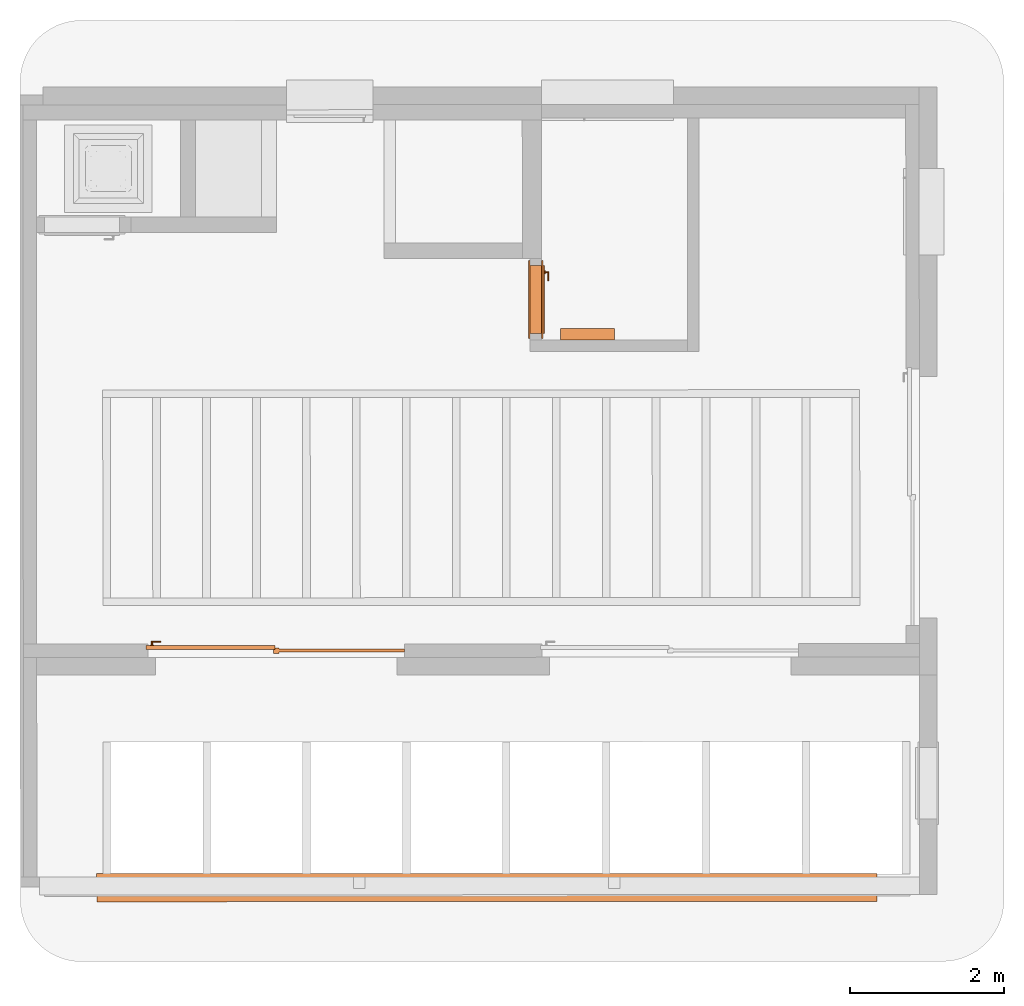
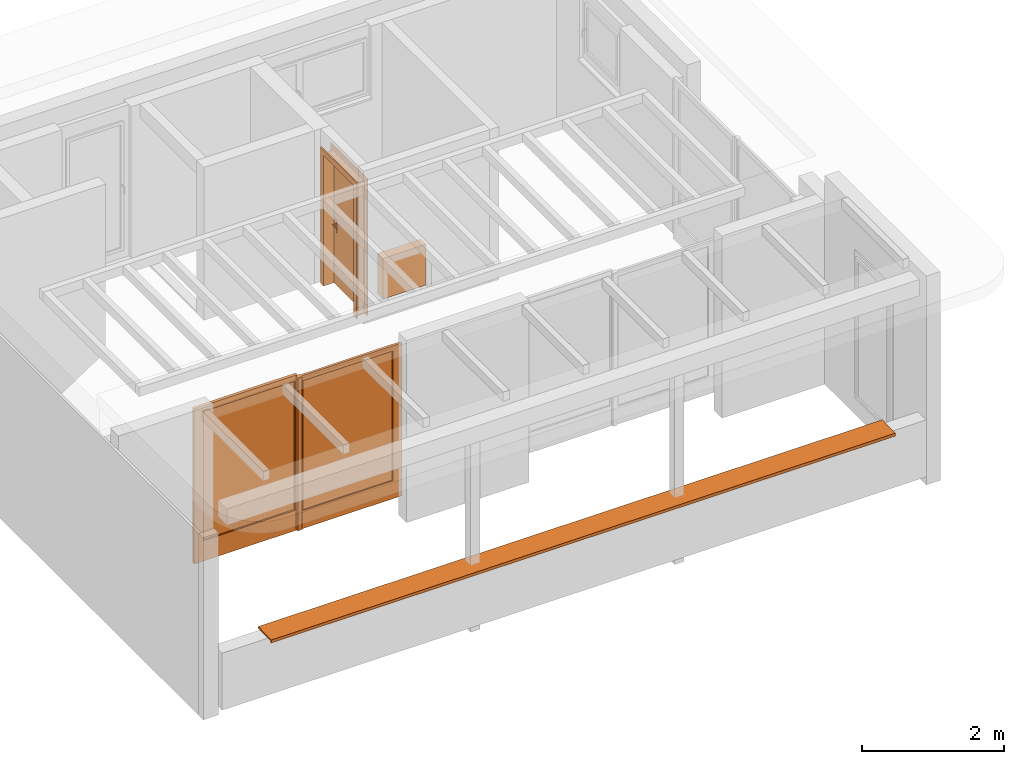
# One storey, part 4 of 7: 4 proxies.
"""IFC2X3 building model written with IfcOpenShell, lengths in metres."""

from ifc_helpers import new_model, entity, si_unit, converted_unit, derived_unit, direction, frame, origin, origin_with_axes, place, context, subcontext, project, spatial, closed_shell, open_shell, faceted_brep, surface_model, source, transform, mapped, element, save


model = new_model("IFC2X3")

# Units and contexts
model_context = context("Model", 3, precision=1e-05, world=origin(), true_north=direction((0.772621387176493, -0.634867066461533)))
body_context = subcontext(model_context, "Body", "Model", "MODEL_VIEW")
ifc_project = project(units=[si_unit("LENGTHUNIT", "METRE"), si_unit("AREAUNIT", "SQUARE_METRE"), si_unit("VOLUMEUNIT", "CUBIC_METRE"), si_unit("MASSUNIT", "GRAM", prefix="KILO"), converted_unit("PLANEANGLEUNIT", "DEGREE", entity("IfcPlaneAngleMeasure", 0.0174532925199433), si_unit("PLANEANGLEUNIT", "RADIAN"), dimensions=[0, 0, 0, 0, 0, 0, 0]), derived_unit("THERMALTRANSMITTANCEUNIT", [(si_unit("POWERUNIT", "WATT"), 1), (si_unit("THERMODYNAMICTEMPERATUREUNIT", "KELVIN"), -1), (si_unit("LENGTHUNIT", "METRE"), -2)]), derived_unit("VOLUMETRICFLOWRATEUNIT", [(si_unit("LENGTHUNIT", "METRE"), 3), (converted_unit("TIMEUNIT", "hour", entity("IfcTimeMeasure", 3600.0), si_unit("TIMEUNIT", "SECOND"), dimensions=[0, 0, 1, 0, 0, 0, 0]), -1), (si_unit("LENGTHUNIT", "METRE"), -1)])], contexts=[model_context])

# Site, building, storey
site_placement = place(None, origin())
site = spatial("IfcSite", under=ifc_project, at=site_placement, Name="Modelle auf dem Nullpunkt", CompositionType="ELEMENT")
building_placement = place(site_placement, origin())
building = spatial("IfcBuilding", under=site, at=building_placement, Name="I", CompositionType="ELEMENT")
storey_placement = place(building_placement, origin())
storey = spatial("IfcBuildingStorey", under=building, at=storey_placement, Name="3.OG", CompositionType="ELEMENT", Elevation=0.0)

# Proxies
shared_shape_1 = source(origin_with_axes(), body_context, "Body", "Brep", [
    faceted_brep([(0.0700000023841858, 0.190000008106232, 2.27), (0.0700000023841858, 0.190000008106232, 0.0), (0.0900000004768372, 0.190000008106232, 0.0), (0.0900000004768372, 0.190000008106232, 2.27), (0.0700000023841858, 0.0, 0.0), (0.0700000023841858, 0.0, 2.27), (0.0900000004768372, 0.0, 2.27), (0.0900000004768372, 0.0, 0.0)], [[[0, 1, 2, 3]], [[4, 5, 6, 7]], [[1, 0, 5, 4]], [[2, 1, 4, 7]], [[3, 2, 7, 6]], [[0, 3, 6, 5]]], orient=[[False], [False], [False], [False], [False], [False]]),
    faceted_brep([(0.0700000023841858, 0.190000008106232, 2.34), (0.0, 0.190000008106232, 2.34), (0.0, 0.190000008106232, 0.0), (0.0700000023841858, 0.190000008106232, 0.0), (0.0700000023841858, 0.170000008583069, 0.0), (0.0, 0.170000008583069, 0.0), (0.0, 0.170000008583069, 2.34), (0.0700000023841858, 0.170000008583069, 2.34)], [[[0, 1, 2, 3]], [[4, 5, 6, 7]], [[3, 4, 7, 0]], [[2, 5, 4, 3]], [[1, 6, 5, 2]], [[0, 7, 6, 1]]], orient=[[False], [False], [False], [False], [False], [False]]),
    faceted_brep([(0.0700000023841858, 0.0199999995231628, 2.34), (0.0, 0.02, 2.34), (0.0, 0.02, 0.0), (0.0700000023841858, 0.0199999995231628, 0.0), (0.0700000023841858, 0.0, 0.0), (0.0, 0.0, 0.0), (0.0, 0.0, 2.34), (0.0700000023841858, 0.0, 2.34)], [[[0, 1, 2, 3]], [[4, 5, 6, 7]], [[3, 4, 7, 0]], [[2, 5, 4, 3]], [[1, 6, 5, 2]], [[0, 7, 6, 1]]], orient=[[False], [False], [False], [False], [False], [False]]),
    faceted_brep([(0.930000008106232, 0.190000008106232, 2.27), (0.930000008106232, 0.190000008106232, 0.0), (0.950000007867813, 0.190000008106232, 0.0), (0.950000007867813, 0.190000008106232, 2.27), (0.930000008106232, 0.0, 0.0), (0.930000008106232, 0.0, 2.27), (0.950000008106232, 0.0, 2.27), (0.950000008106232, 0.0, 0.0)], [[[0, 1, 2, 3]], [[4, 5, 6, 7]], [[1, 0, 5, 4]], [[2, 1, 4, 7]], [[3, 2, 7, 6]], [[0, 3, 6, 5]]], orient=[[False], [False], [False], [False], [False], [False]]),
    faceted_brep([(0.950000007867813, 0.190000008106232, 2.34), (0.950000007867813, 0.190000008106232, 0.0), (1.02000000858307, 0.190000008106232, 0.0), (1.02000000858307, 0.190000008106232, 2.34), (0.950000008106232, 0.170000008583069, 0.0), (0.950000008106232, 0.170000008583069, 2.34), (1.02000000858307, 0.170000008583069, 2.34), (1.02000000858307, 0.170000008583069, 0.0)], [[[0, 1, 2, 3]], [[4, 5, 6, 7]], [[1, 0, 5, 4]], [[2, 1, 4, 7]], [[3, 2, 7, 6]], [[0, 3, 6, 5]]], orient=[[False], [False], [False], [False], [False], [False]]),
    faceted_brep([(0.950000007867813, 0.0199999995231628, 2.34), (0.950000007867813, 0.0199999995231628, 0.0), (1.02000000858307, 0.0199999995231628, 0.0), (1.02000000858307, 0.0199999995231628, 2.34), (0.950000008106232, 0.0, 0.0), (0.950000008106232, 0.0, 2.34), (1.02000000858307, 0.0, 2.34), (1.02000000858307, 0.0, 0.0)], [[[0, 1, 2, 3]], [[4, 5, 6, 7]], [[1, 0, 5, 4]], [[2, 1, 4, 7]], [[3, 2, 7, 6]], [[0, 3, 6, 5]]], orient=[[False], [False], [False], [False], [False], [False]]),
    faceted_brep([(0.0900000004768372, 0.190000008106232, 2.27), (0.0900000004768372, 0.190000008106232, 2.25), (0.930000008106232, 0.190000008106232, 2.25), (0.930000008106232, 0.190000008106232, 2.27), (0.0900000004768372, 0.0, 2.25), (0.0900000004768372, 0.0, 2.27), (0.930000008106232, 0.0, 2.27), (0.930000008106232, 0.0, 2.25)], [[[0, 1, 2, 3]], [[4, 5, 6, 7]], [[1, 0, 5, 4]], [[2, 1, 4, 7]], [[3, 2, 7, 6]], [[0, 3, 6, 5]]], orient=[[False], [False], [False], [False], [False], [False]]),
    faceted_brep([(0.0700000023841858, 0.190000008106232, 2.34), (0.0700000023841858, 0.190000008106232, 2.27), (0.950000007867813, 0.190000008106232, 2.27), (0.950000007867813, 0.190000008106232, 2.34), (0.0700000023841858, 0.170000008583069, 2.27), (0.0700000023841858, 0.170000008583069, 2.34), (0.950000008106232, 0.170000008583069, 2.34), (0.950000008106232, 0.170000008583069, 2.27)], [[[0, 1, 2, 3]], [[4, 5, 6, 7]], [[1, 0, 5, 4]], [[2, 1, 4, 7]], [[3, 2, 7, 6]], [[0, 3, 6, 5]]], orient=[[False], [False], [False], [False], [False], [False]]),
    faceted_brep([(0.0700000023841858, 0.0199999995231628, 2.34), (0.0700000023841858, 0.0199999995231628, 2.27), (0.950000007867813, 0.0199999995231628, 2.27), (0.950000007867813, 0.0199999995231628, 2.34), (0.0700000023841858, 0.0, 2.27), (0.0700000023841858, 0.0, 2.34), (0.950000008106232, 0.0, 2.34), (0.950000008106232, 0.0, 2.27)], [[[0, 1, 2, 3]], [[4, 5, 6, 7]], [[1, 0, 5, 4]], [[2, 1, 4, 7]], [[3, 2, 7, 6]], [[0, 3, 6, 5]]], orient=[[False], [False], [False], [False], [False], [False]]),
    faceted_brep([(0.0700000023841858, 0.210000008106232, 2.27), (0.0700000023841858, 0.210000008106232, 0.0), (0.950000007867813, 0.210000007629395, 0.0), (0.950000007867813, 0.210000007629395, 2.27), (0.0700000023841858, 0.170000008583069, 0.0), (0.0700000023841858, 0.170000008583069, 2.27), (0.950000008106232, 0.170000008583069, 2.27), (0.950000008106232, 0.170000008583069, 0.0)], [[[0, 1, 2, 3]], [[4, 5, 6, 7]], [[1, 0, 5, 4]], [[2, 1, 4, 7]], [[3, 2, 7, 6]], [[0, 3, 6, 5]]], orient=[[False], [False], [False], [False], [False], [False]]),
    faceted_brep([(0.130000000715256, 0.170000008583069, 1.125), (0.130000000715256, 0.170000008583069, 0.91), (0.180000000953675, 0.170000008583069, 0.91), (0.180000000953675, 0.170000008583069, 1.125), (0.130000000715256, 0.160000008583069, 0.91), (0.130000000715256, 0.160000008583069, 1.125), (0.180000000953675, 0.160000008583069, 1.125), (0.180000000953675, 0.160000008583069, 0.91)], [[[0, 1, 2, 3]], [[4, 5, 6, 7]], [[1, 0, 5, 4]], [[2, 1, 4, 7]], [[3, 2, 7, 6]], [[0, 3, 6, 5]]], orient=[[False], [False], [False], [False], [False], [False]]),
    faceted_brep([(0.155000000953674, 0.160000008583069, 1.06), (0.150000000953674, 0.160000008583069, 1.05866025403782), (0.146339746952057, 0.160000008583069, 1.055), (0.145000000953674, 0.160000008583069, 1.05), (0.146339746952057, 0.160000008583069, 1.045), (0.150000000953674, 0.160000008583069, 1.04133974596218), (0.155000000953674, 0.160000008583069, 1.04), (0.160000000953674, 0.160000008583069, 1.04133974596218), (0.163660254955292, 0.160000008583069, 1.045), (0.165000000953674, 0.160000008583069, 1.05), (0.163660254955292, 0.160000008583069, 1.055), (0.160000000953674, 0.160000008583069, 1.05866025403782), (0.155000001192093, 0.120000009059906, 1.06), (0.150000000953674, 0.115000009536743, 1.05866025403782), (0.146339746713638, 0.111339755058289, 1.055), (0.145000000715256, 0.110000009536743, 1.05), (0.146339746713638, 0.111339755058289, 1.045), (0.150000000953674, 0.115000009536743, 1.04133974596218), (0.155000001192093, 0.120000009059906, 1.04), (0.160000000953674, 0.125000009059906, 1.04133974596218), (0.163660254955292, 0.128660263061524, 1.045), (0.165000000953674, 0.130000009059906, 1.05), (0.163660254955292, 0.128660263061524, 1.055), (0.160000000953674, 0.125000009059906, 1.05866025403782), (0.27000000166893, 0.120000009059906, 1.06), (0.27000000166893, 0.125000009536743, 1.05866025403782), (0.27000000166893, 0.128660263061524, 1.055), (0.270000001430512, 0.130000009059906, 1.05), (0.27000000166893, 0.128660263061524, 1.045), (0.27000000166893, 0.125000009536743, 1.04133974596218), (0.27000000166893, 0.120000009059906, 1.04), (0.27000000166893, 0.115000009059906, 1.04133974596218), (0.270000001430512, 0.111339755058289, 1.045), (0.27000000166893, 0.110000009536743, 1.05), (0.270000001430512, 0.111339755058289, 1.055), (0.27000000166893, 0.115000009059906, 1.05866025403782)], [[[0, 1, 2, 3, 4, 5, 6, 7, 8, 9, 10, 11]], [[0, 12, 13, 1]], [[1, 13, 14, 2]], [[2, 14, 15, 3]], [[3, 15, 16, 4]], [[4, 16, 17, 5]], [[5, 17, 18, 6]], [[6, 18, 19, 7]], [[7, 19, 20, 8]], [[8, 20, 21, 9]], [[9, 21, 22, 10]], [[10, 22, 23, 11]], [[11, 23, 12, 0]], [[24, 25, 26, 27, 28, 29, 30, 31, 32, 33, 34, 35]], [[12, 24, 35, 13]], [[13, 35, 34, 14]], [[14, 34, 33, 15]], [[15, 33, 32, 16]], [[16, 32, 31, 17]], [[17, 31, 30, 18]], [[18, 30, 29, 19]], [[19, 29, 28, 20]], [[20, 28, 27, 21]], [[21, 27, 26, 22]], [[22, 26, 25, 23]], [[23, 25, 24, 12]]], orient=[[False], [False], [False], [False], [False], [False], [False], [False], [False], [False], [False], [False], [False], [False], [False], [False], [False], [False], [False], [False], [False], [False], [False], [False], [False], [False]]),
    faceted_brep([(0.130000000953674, 0.210000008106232, 1.125), (0.180000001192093, 0.210000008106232, 1.125), (0.180000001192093, 0.210000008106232, 0.91), (0.130000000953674, 0.210000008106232, 0.91), (0.130000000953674, 0.220000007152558, 0.91), (0.180000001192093, 0.220000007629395, 0.91), (0.180000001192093, 0.220000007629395, 1.125), (0.130000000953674, 0.220000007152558, 1.125)], [[[0, 1, 2, 3]], [[4, 5, 6, 7]], [[3, 4, 7, 0]], [[2, 5, 4, 3]], [[1, 6, 5, 2]], [[0, 7, 6, 1]]], orient=[[False], [False], [False], [False], [False], [False]]),
    faceted_brep([(0.155000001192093, 0.220000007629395, 1.06), (0.160000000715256, 0.220000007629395, 1.05866025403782), (0.163660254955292, 0.220000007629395, 1.055), (0.165000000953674, 0.220000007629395, 1.05), (0.163660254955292, 0.220000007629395, 1.045), (0.160000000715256, 0.220000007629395, 1.04133974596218), (0.155000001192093, 0.220000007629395, 1.04), (0.150000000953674, 0.220000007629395, 1.04133974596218), (0.146339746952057, 0.220000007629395, 1.045), (0.145000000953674, 0.220000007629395, 1.05), (0.146339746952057, 0.220000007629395, 1.055), (0.150000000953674, 0.220000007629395, 1.05866025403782), (0.150000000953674, 0.26500000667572, 1.05866025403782), (0.155000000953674, 0.26000000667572, 1.06), (0.146339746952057, 0.268660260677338, 1.055), (0.145000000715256, 0.270000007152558, 1.05), (0.146339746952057, 0.268660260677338, 1.045), (0.150000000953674, 0.26500000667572, 1.04133974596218), (0.155000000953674, 0.26000000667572, 1.04), (0.160000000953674, 0.255000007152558, 1.04133974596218), (0.163660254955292, 0.25133975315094, 1.045), (0.165000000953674, 0.250000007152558, 1.05), (0.163660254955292, 0.25133975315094, 1.055), (0.160000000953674, 0.255000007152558, 1.05866025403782), (0.27000000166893, 0.260000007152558, 1.06), (0.27000000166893, 0.26500000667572, 1.05866025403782), (0.270000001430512, 0.268660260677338, 1.055), (0.27000000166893, 0.270000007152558, 1.05), (0.270000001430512, 0.268660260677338, 1.045), (0.27000000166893, 0.26500000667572, 1.04133974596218), (0.27000000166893, 0.260000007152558, 1.04), (0.27000000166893, 0.255000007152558, 1.04133974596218), (0.27000000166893, 0.25133975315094, 1.045), (0.270000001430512, 0.250000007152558, 1.05), (0.27000000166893, 0.25133975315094, 1.055), (0.27000000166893, 0.255000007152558, 1.05866025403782)], [[[0, 1, 2, 3, 4, 5, 6, 7, 8, 9, 10, 11]], [[0, 11, 12, 13]], [[11, 10, 14, 12]], [[10, 9, 15, 14]], [[9, 8, 16, 15]], [[8, 7, 17, 16]], [[7, 6, 18, 17]], [[6, 5, 19, 18]], [[5, 4, 20, 19]], [[4, 3, 21, 20]], [[3, 2, 22, 21]], [[2, 1, 23, 22]], [[1, 0, 13, 23]], [[24, 25, 26, 27, 28, 29, 30, 31, 32, 33, 34, 35]], [[13, 12, 25, 24]], [[12, 14, 26, 25]], [[14, 15, 27, 26]], [[15, 16, 28, 27]], [[16, 17, 29, 28]], [[17, 18, 30, 29]], [[18, 19, 31, 30]], [[19, 20, 32, 31]], [[20, 21, 33, 32]], [[21, 22, 34, 33]], [[22, 23, 35, 34]], [[23, 13, 24, 35]]], orient=[[False], [False], [False], [False], [False], [False], [False], [False], [False], [False], [False], [False], [False], [False], [False], [False], [False], [False], [False], [False], [False], [False], [False], [False], [False], [False]]),
])
proxy_1_placement = place(storey_placement, frame((35.9426631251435, 0.113938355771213, 444.6), z_axis=(0.0, 0.0, 1.0), x_axis=(0.000353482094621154, -0.999999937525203, 0.0)))
element("IfcBuildingElementProxy", 1, at=proxy_1_placement, inside=storey, Name="1flg Weiß UZ außen", context=body_context, shape_type="MappedRepresentation", body=[
    mapped(shared_shape_1, transform((0.0, 0.0, 0.0), x_axis=(1.0, 0.0, 0.0), y_axis=(0.0, 1.0, 0.0), z_axis=(0.0, 0.0, 1.0), scale=1.0)),
])
shared_shape_2 = source(origin_with_axes(), body_context, "Body", "Brep", [
    faceted_brep([(0.0, 0.0, 0.7), (0.7, 0.0, 0.7), (0.7, 0.0, 0.0), (0.0, 0.0, 0.0), (0.0, 0.150000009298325, 0.0), (0.7, 0.150000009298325, 0.0), (0.7, 0.150000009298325, 0.7), (0.0, 0.150000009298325, 0.7)], [[[0, 1, 2, 3]], [[4, 5, 6, 7]], [[3, 4, 7, 0]], [[2, 5, 4, 3]], [[1, 6, 5, 2]], [[0, 7, 6, 1]]], orient=[[False], [False], [False], [False], [False], [False]]),
])
proxy_2_placement = place(storey_placement, frame((37.0629758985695, -0.770665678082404, 444.8), z_axis=(0.0, 0.0, 1.0), x_axis=(-0.999999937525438, -0.00035348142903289, 0.0)))
element("IfcBuildingElementProxy", 2, at=proxy_2_placement, inside=storey, Name="2flg Weiß Stulp", context=body_context, shape_type="MappedRepresentation", body=[
    mapped(shared_shape_2, transform((0.0, 0.0, 0.0), x_axis=(1.0, 0.0, 0.0), y_axis=(0.0, 1.0, 0.0), z_axis=(0.0, 0.0, 1.0), scale=1.0)),
])
shared_shape_3 = source(origin_with_axes(), body_context, "Body", "SurfaceModel", [
    surface_model("IfcShellBasedSurfaceModel", [(1.65500000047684, 0.0, 2.65), (1.72500000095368, 0.0, 2.65), (1.72500000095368, 0.0, 0.02), (1.65500000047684, 0.0, 0.02), (1.65500000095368, 0.0699999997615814, 0.02), (1.72500000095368, 0.0699999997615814, 0.02), (1.72500000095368, 0.0699999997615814, 2.65), (1.65500000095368, 0.0699999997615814, 2.65)], [closed_shell([[[0, 1, 2, 3]], [[4, 5, 6, 7]], [[3, 4, 7, 0]], [[2, 5, 4, 3]], [[1, 6, 5, 2]], [[0, 7, 6, 1]]], orient=[[False], [False], [False], [False], [False], [False]])]),
    surface_model("IfcShellBasedSurfaceModel", [(0.0, 0.05, 2.67), (0.15, 0.05, 2.67), (0.15, 0.05, 0.0), (0.0, 0.05, 0.0), (0.0, 0.0999999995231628, 0.0), (0.15, 0.0999999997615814, 0.0), (0.15, 0.0999999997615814, 2.67), (0.0, 0.0999999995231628, 2.67)], [closed_shell([[[0, 1, 2, 3]], [[4, 5, 6, 7]], [[3, 4, 7, 0]], [[2, 5, 4, 3]], [[1, 6, 5, 2]], [[0, 7, 6, 1]]], orient=[[False], [False], [False], [False], [False], [False]])]),
    surface_model("IfcShellBasedSurfaceModel", [(1.63500000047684, 0.05, 2.67), (1.67500000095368, 0.0499999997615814, 2.67), (1.67500000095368, 0.0499999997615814, 0.0), (1.63500000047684, 0.05, 0.0), (1.63500000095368, 0.0999999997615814, 0.0), (1.67500000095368, 0.0999999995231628, 0.0), (1.67500000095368, 0.0999999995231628, 2.67), (1.63500000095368, 0.0999999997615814, 2.67)], [closed_shell([[[0, 1, 2, 3]], [[4, 5, 6, 7]], [[3, 4, 7, 0]], [[2, 5, 4, 3]], [[1, 6, 5, 2]], [[0, 7, 6, 1]]], orient=[[False], [False], [False], [False], [False], [False]])]),
    surface_model("IfcShellBasedSurfaceModel", [(0.15, 0.05, 0.35), (1.63500000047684, 0.05, 0.35), (1.63500000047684, 0.05, 0.0), (0.15, 0.05, 0.0), (0.15, 0.0999999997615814, 0.0), (1.63500000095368, 0.0999999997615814, 0.0), (1.63500000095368, 0.0999999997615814, 0.35), (0.15, 0.0999999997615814, 0.35)], [closed_shell([[[0, 1, 2, 3]], [[4, 5, 6, 7]], [[3, 4, 7, 0]], [[2, 5, 4, 3]], [[1, 6, 5, 2]], [[0, 7, 6, 1]]], orient=[[False], [False], [False], [False], [False], [False]])]),
    surface_model("IfcShellBasedSurfaceModel", [(0.15, 0.05, 2.67), (1.63500000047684, 0.05, 2.67), (1.63500000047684, 0.05, 2.57), (0.15, 0.05, 2.57), (0.15, 0.0999999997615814, 2.57), (1.63500000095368, 0.0999999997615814, 2.57), (1.63500000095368, 0.0999999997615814, 2.67), (0.15, 0.0999999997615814, 2.67)], [closed_shell([[[0, 1, 2, 3]], [[4, 5, 6, 7]], [[3, 4, 7, 0]], [[2, 5, 4, 3]], [[1, 6, 5, 2]], [[0, 7, 6, 1]]], orient=[[False], [False], [False], [False], [False], [False]])]),
    surface_model("IfcShellBasedSurfaceModel", [(0.0499999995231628, 0.0999999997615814, 1.145), (0.100000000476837, 0.0999999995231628, 1.145), (0.100000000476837, 0.0999999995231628, 0.93), (0.0499999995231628, 0.0999999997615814, 0.93), (0.0499999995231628, 0.109999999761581, 0.93), (0.100000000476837, 0.109999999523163, 0.93), (0.100000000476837, 0.109999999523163, 1.145), (0.0499999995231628, 0.109999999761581, 1.145)], [closed_shell([[[0, 1, 2, 3]], [[4, 5, 6, 7]], [[3, 4, 7, 0]], [[2, 5, 4, 3]], [[1, 6, 5, 2]], [[0, 7, 6, 1]]], orient=[[False], [False], [False], [False], [False], [False]])]),
    surface_model("IfcShellBasedSurfaceModel", [(0.075, 0.109999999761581, 1.08), (0.08, 0.109999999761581, 1.07866025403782), (0.0836602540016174, 0.109999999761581, 1.075), (0.0850000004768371, 0.109999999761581, 1.07), (0.0836602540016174, 0.109999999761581, 1.065), (0.08, 0.109999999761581, 1.06133974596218), (0.075, 0.109999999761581, 1.06), (0.0700000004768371, 0.109999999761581, 1.06133974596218), (0.0663397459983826, 0.109999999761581, 1.065), (0.0649999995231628, 0.109999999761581, 1.07), (0.0663397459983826, 0.109999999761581, 1.075), (0.0700000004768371, 0.109999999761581, 1.07866025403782), (0.07, 0.154999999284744, 1.07866025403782), (0.075, 0.149999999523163, 1.08), (0.0663397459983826, 0.15866025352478, 1.075), (0.065, 0.159999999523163, 1.07), (0.0663397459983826, 0.15866025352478, 1.065), (0.07, 0.154999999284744, 1.06133974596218), (0.075, 0.149999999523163, 1.06), (0.08, 0.144999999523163, 1.06133974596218), (0.0836602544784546, 0.141339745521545, 1.065), (0.0850000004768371, 0.139999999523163, 1.07), (0.0836602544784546, 0.141339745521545, 1.075), (0.08, 0.144999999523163, 1.07866025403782), (0.19, 0.149999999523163, 1.08), (0.19, 0.154999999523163, 1.07866025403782), (0.19, 0.15866025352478, 1.075), (0.19, 0.159999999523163, 1.07), (0.19, 0.15866025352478, 1.065), (0.19, 0.154999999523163, 1.06133974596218), (0.19, 0.149999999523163, 1.06), (0.190000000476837, 0.144999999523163, 1.06133974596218), (0.19, 0.141339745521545, 1.065), (0.19, 0.139999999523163, 1.07), (0.19, 0.141339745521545, 1.075), (0.190000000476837, 0.144999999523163, 1.07866025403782)], [closed_shell([[[0, 1, 2, 3, 4, 5, 6, 7, 8, 9, 10, 11]], [[0, 11, 12, 13]], [[11, 10, 14, 12]], [[10, 9, 15, 14]], [[9, 8, 16, 15]], [[8, 7, 17, 16]], [[7, 6, 18, 17]], [[6, 5, 19, 18]], [[5, 4, 20, 19]], [[4, 3, 21, 20]], [[3, 2, 22, 21]], [[2, 1, 23, 22]], [[1, 0, 13, 23]], [[24, 25, 26, 27, 28, 29, 30, 31, 32, 33, 34, 35]], [[13, 12, 25, 24]], [[12, 14, 26, 25]], [[14, 15, 27, 26]], [[15, 16, 28, 27]], [[16, 17, 29, 28]], [[17, 18, 30, 29]], [[18, 19, 31, 30]], [[19, 20, 32, 31]], [[20, 21, 33, 32]], [[21, 22, 34, 33]], [[22, 23, 35, 34]], [[23, 13, 24, 35]]], orient=[[False], [False], [False], [False], [False], [False], [False], [False], [False], [False], [False], [False], [False], [False], [False], [False], [False], [False], [False], [False], [False], [False], [False], [False], [False], [False]])]),
    surface_model("IfcShellBasedSurfaceModel", [(1.72500000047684, 0.0150000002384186, 2.65), (1.74500000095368, 0.0150000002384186, 2.65), (1.74500000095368, 0.0150000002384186, 0.02), (1.72500000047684, 0.0150000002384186, 0.02), (1.72500000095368, 0.0549999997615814, 0.02), (1.74500000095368, 0.055, 0.02), (1.74500000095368, 0.055, 2.65), (1.72500000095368, 0.0549999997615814, 2.65)], [closed_shell([[[0, 1, 2, 3]], [[4, 5, 6, 7]], [[3, 4, 7, 0]], [[2, 5, 4, 3]], [[1, 6, 5, 2]], [[0, 7, 6, 1]]], orient=[[False], [False], [False], [False], [False], [False]])]),
    surface_model("IfcShellBasedSurfaceModel", [(3.21000000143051, 0.015, 2.65), (3.36000000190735, 0.015, 2.65), (3.36000000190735, 0.015, 0.02), (3.21000000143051, 0.015, 0.02), (3.21000000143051, 0.0549999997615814, 0.02), (3.36000000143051, 0.055, 0.02), (3.36000000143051, 0.055, 2.65), (3.21000000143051, 0.0549999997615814, 2.65)], [closed_shell([[[0, 1, 2, 3]], [[4, 5, 6, 7]], [[3, 4, 7, 0]], [[2, 5, 4, 3]], [[1, 6, 5, 2]], [[0, 7, 6, 1]]], orient=[[False], [False], [False], [False], [False], [False]])]),
    surface_model("IfcShellBasedSurfaceModel", [(1.74500000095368, 0.0150000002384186, 0.33), (3.21000000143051, 0.015, 0.33), (3.21000000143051, 0.015, 0.02), (1.74500000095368, 0.0150000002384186, 0.02), (1.74500000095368, 0.055, 0.02), (3.21000000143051, 0.0549999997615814, 0.02), (3.21000000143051, 0.0549999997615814, 0.33), (1.74500000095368, 0.055, 0.33)], [closed_shell([[[0, 1, 2, 3]], [[4, 5, 6, 7]], [[3, 4, 7, 0]], [[2, 5, 4, 3]], [[1, 6, 5, 2]], [[0, 7, 6, 1]]], orient=[[False], [False], [False], [False], [False], [False]])]),
    surface_model("IfcShellBasedSurfaceModel", [(1.74500000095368, 0.0150000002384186, 2.65), (3.21000000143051, 0.015, 2.65), (3.21000000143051, 0.015, 2.56), (1.74500000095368, 0.0150000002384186, 2.56), (1.74500000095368, 0.055, 2.56), (3.21000000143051, 0.0549999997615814, 2.56), (3.21000000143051, 0.0549999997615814, 2.65), (1.74500000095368, 0.055, 2.65)], [closed_shell([[[0, 1, 2, 3]], [[4, 5, 6, 7]], [[3, 4, 7, 0]], [[2, 5, 4, 3]], [[1, 6, 5, 2]], [[0, 7, 6, 1]]], orient=[[False], [False], [False], [False], [False], [False]])]),
    surface_model("IfcShellBasedSurfaceModel", [(0.15, 0.075, 0.35), (0.15, 0.075, 2.57), (1.63500000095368, 0.075, 2.57), (1.63500000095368, 0.075, 0.35)], [open_shell([[[0, 1, 2, 3]]], orient=[[False]])]),
    surface_model("IfcShellBasedSurfaceModel", [(1.74500000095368, 0.035, 0.33), (1.74500000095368, 0.035, 2.56), (3.21000000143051, 0.035, 2.56), (3.21000000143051, 0.035, 0.33)], [open_shell([[[0, 1, 2, 3]]], orient=[[False]])]),
])
proxy_3_placement = place(storey_placement, frame((30.9694706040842, -5.00031989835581, 444.58), z_axis=(0.0, 0.0, 1.0), x_axis=(0.999999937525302, 0.000353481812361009, 0.0)))
element("IfcBuildingElementProxy", 3, at=proxy_3_placement, inside=storey, Name="1flg Weiß Blockzarge", ObjectType="DOOR", context=body_context, shape_type="MappedRepresentation", body=[
    mapped(shared_shape_3, transform((0.0, 0.0, 0.0), x_axis=(1.0, 0.0, 0.0), y_axis=(0.0, 1.0, 0.0), z_axis=(0.0, 0.0, 1.0), scale=1.0)),
])
proxy_4_placement = place(storey_placement, frame((30.3254833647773, -8.23304769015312, 445.44)))
element("IfcBuildingElementProxy", 4, at=proxy_4_placement, inside=storey, Name="2flg Weiß Stulp", context=body_context, shape_type="Brep", body=[
    faceted_brep([(0.000122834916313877, 0.0199999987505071, 0.03), (0.0, 0.367499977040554, 0.03), (0.0, 0.367499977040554, 0.06), (0.000129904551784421, 0.0, 0.05), (0.000129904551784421, 0.0, 0.0), (0.000122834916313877, 0.0199999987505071, 0.0), (10.149999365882, 0.371087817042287, 0.03), (10.1501222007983, 0.0235878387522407, 0.03), (10.1501222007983, 0.0235878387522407, 0.0), (10.1501292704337, 0.00358784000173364, 0.0), (10.1501292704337, 0.00358784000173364, 0.05), (10.149999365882, 0.371087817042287, 0.06)], [[[0, 1, 2, 3, 4, 5]], [[6, 7, 8, 9, 10, 11]], [[1, 0, 7, 6]], [[2, 1, 6, 11]], [[3, 2, 11, 10]], [[4, 3, 10, 9]], [[5, 4, 9, 8]], [[0, 5, 8, 7]]], orient=[[False], [False], [False], [False], [False], [False], [False], [False]]),
])

save(model, "model.ifc")
